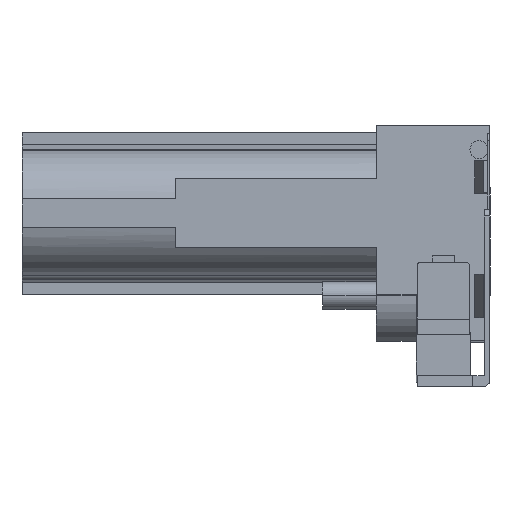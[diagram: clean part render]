
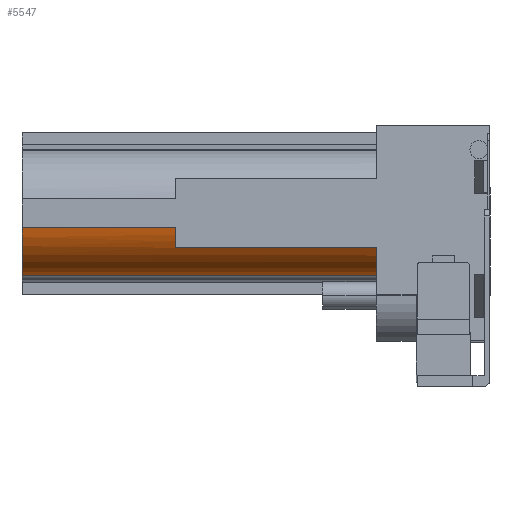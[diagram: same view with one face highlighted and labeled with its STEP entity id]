
A CAD part, front view. The second image highlights one B-rep face of the part: STEP entity #5547.
In plain terms, the highlighted cylindrical face has radius 23 mm (diameter 46 mm), a partial arc.
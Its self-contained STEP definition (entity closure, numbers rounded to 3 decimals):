
#321 = CARTESIAN_POINT ( 'NONE',  ( -41.25, 393.582, 13.258 ) ) ;
#322 = DIRECTION ( 'NONE',  ( -1., 0., 0. ) ) ;
#323 = DIRECTION ( 'NONE',  ( 0., -1., 0. ) ) ;
#524 = CARTESIAN_POINT ( 'NONE',  ( -169.95, 371.148, 8.186 ) ) ;
#553 = CARTESIAN_POINT ( 'NONE',  ( -41.25, 388.363, -9.142 ) ) ;
#557 = CARTESIAN_POINT ( 'NONE',  ( -41.25, 374.192, 0.888 ) ) ;
#594 = CARTESIAN_POINT ( 'NONE',  ( -114.25, 371.148, 8.186 ) ) ;
#665 = CARTESIAN_POINT ( 'NONE',  ( -169.95, 388.363, -9.142 ) ) ;
#669 = CARTESIAN_POINT ( 'NONE',  ( -114.25, 374.192, 0.888 ) ) ;
#1731 = FACE_OUTER_BOUND ( 'NONE', #4418, .T. ) ;
#1732 = CYLINDRICAL_SURFACE ( 'NONE', #1885, 23. ) ;
#1764 = CARTESIAN_POINT ( 'NONE',  ( -114.25, 374.192, 0.888 ) ) ;
#1885 = AXIS2_PLACEMENT_3D ( 'NONE', #321, #322, #323 ) ;
#3171 = EDGE_CURVE ( 'NONE', #6333, #6445, #5076, .T. ) ;
#3172 = EDGE_CURVE ( 'NONE', #6304, #6445, #5079, .T. ) ;
#3173 = EDGE_CURVE ( 'NONE', #6374, #6304, #5078, .T. ) ;
#3174 = EDGE_CURVE ( 'NONE', #6374, #6449, #5082, .T. ) ;
#3175 = EDGE_CURVE ( 'NONE', #6449, #6337, #5081, .T. ) ;
#3186 = EDGE_CURVE ( 'NONE', #6337, #6333, #5103, .T. ) ;
#3669 = AXIS2_PLACEMENT_3D ( 'NONE', #5974, #5972, #5971 ) ;
#3670 = AXIS2_PLACEMENT_3D ( 'NONE', #6155, #6161, #6166 ) ;
#3673 = AXIS2_PLACEMENT_3D ( 'NONE', #5918, #5919, #5922 ) ;
#4418 = EDGE_LOOP ( 'NONE', ( #5830, #5831, #5832, #5833, #5834, #5835 ) ) ;
#5076 = LINE ( 'NONE', #5977, #5077 ) ;
#5077 = VECTOR ( 'NONE', #5976, 1000. ) ;
#5078 = LINE ( 'NONE', #5969, #5080 ) ;
#5079 = CIRCLE ( 'NONE', #3669, 23. ) ;
#5080 = VECTOR ( 'NONE', #5968, 1000. ) ;
#5081 = LINE ( 'NONE', #1764, #5083 ) ;
#5082 = CIRCLE ( 'NONE', #3670, 23. ) ;
#5083 = VECTOR ( 'NONE', #5554, 1000. ) ;
#5103 = CIRCLE ( 'NONE', #3673, 23. ) ;
#5547 = ADVANCED_FACE ( 'NONE', ( #1731 ), #1732, .T. ) ;
#5554 = DIRECTION ( 'NONE',  ( 1., 0., 0. ) ) ;
#5830 = ORIENTED_EDGE ( 'NONE', *, *, #3175, .F. ) ;
#5831 = ORIENTED_EDGE ( 'NONE', *, *, #3174, .F. ) ;
#5832 = ORIENTED_EDGE ( 'NONE', *, *, #3173, .T. ) ;
#5833 = ORIENTED_EDGE ( 'NONE', *, *, #3172, .T. ) ;
#5834 = ORIENTED_EDGE ( 'NONE', *, *, #3171, .F. ) ;
#5835 = ORIENTED_EDGE ( 'NONE', *, *, #3186, .F. ) ;
#5918 = CARTESIAN_POINT ( 'NONE',  ( -41.25, 393.582, 13.258 ) ) ;
#5919 = DIRECTION ( 'NONE',  ( 1., 0., 0. ) ) ;
#5922 = DIRECTION ( 'NONE',  ( 0., -1., 0. ) ) ;
#5968 = DIRECTION ( 'NONE',  ( -1., 0., 0. ) ) ;
#5969 = CARTESIAN_POINT ( 'NONE',  ( -41.25, 371.148, 8.186 ) ) ;
#5971 = DIRECTION ( 'NONE',  ( 0., -1., 0. ) ) ;
#5972 = DIRECTION ( 'NONE',  ( 1., 0., 0. ) ) ;
#5974 = CARTESIAN_POINT ( 'NONE',  ( -169.95, 393.582, 13.258 ) ) ;
#5976 = DIRECTION ( 'NONE',  ( -1., 0., 0. ) ) ;
#5977 = CARTESIAN_POINT ( 'NONE',  ( -41.25, 388.363, -9.142 ) ) ;
#6155 = CARTESIAN_POINT ( 'NONE',  ( -114.25, 393.582, 13.258 ) ) ;
#6161 = DIRECTION ( 'NONE',  ( 1., 0., 0. ) ) ;
#6166 = DIRECTION ( 'NONE',  ( 0., -1., 0. ) ) ;
#6304 = VERTEX_POINT ( 'NONE', #524 ) ;
#6333 = VERTEX_POINT ( 'NONE', #553 ) ;
#6337 = VERTEX_POINT ( 'NONE', #557 ) ;
#6374 = VERTEX_POINT ( 'NONE', #594 ) ;
#6445 = VERTEX_POINT ( 'NONE', #665 ) ;
#6449 = VERTEX_POINT ( 'NONE', #669 ) ;
